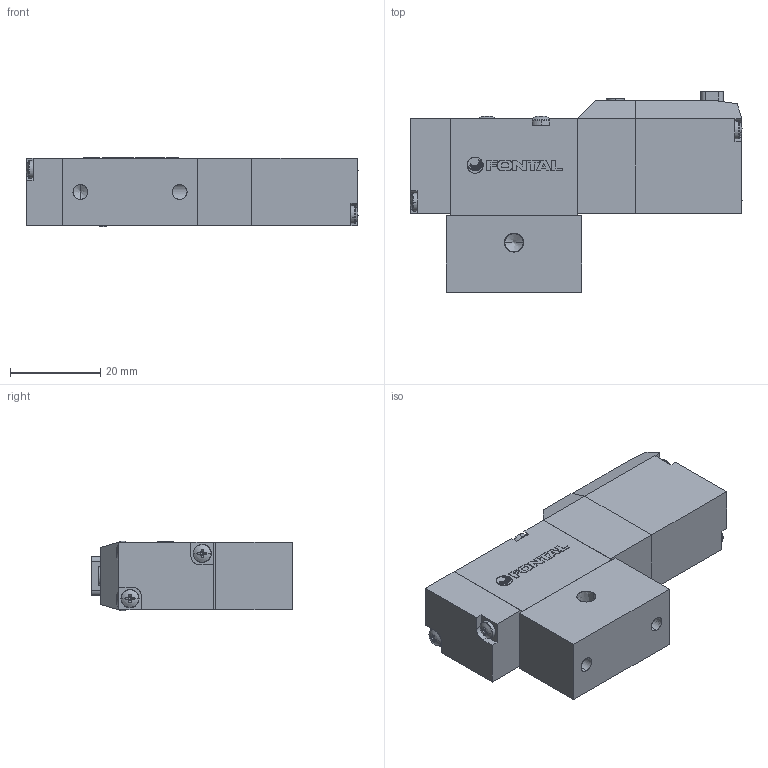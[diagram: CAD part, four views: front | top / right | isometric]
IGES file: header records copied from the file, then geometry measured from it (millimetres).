
Start section: SolidWorks IGES file using analytic representation for surfaces
Global section: file name: D:\Custom\3D繪製\PC\PC5\PCS245#-M5-#-U-#.IGS,1; native system: 5HSolidWorks 2014; preprocessor: SolidWorks 2014; author: Chieh_Lu; date: 150729.232306; units: millimetre
Bounding box: 73.64 x 44.5 x 15.4 mm (x, y, z)
Surface area: 13423.6 mm2 (no closed solid volume)
Topology: 0 solids, 0 shells, 476 faces, 4308 edges, 4286 vertices
Faces by surface type: bspline 295, revolution 181
